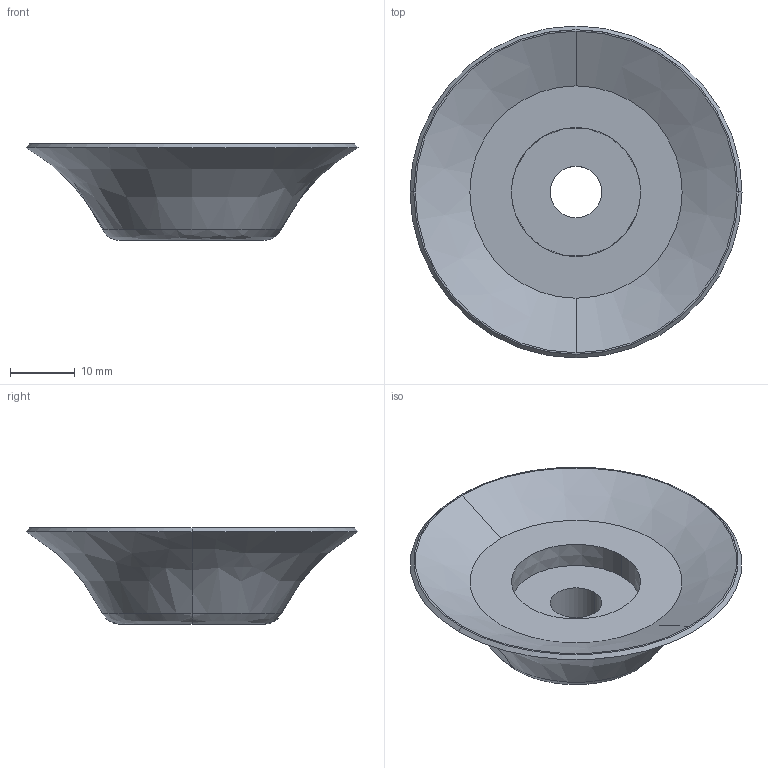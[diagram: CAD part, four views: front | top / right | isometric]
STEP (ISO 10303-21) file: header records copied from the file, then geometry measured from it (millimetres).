
FILE_DESCRIPTION (( 'STEP AP214' ), '1' );
FILE_NAME ('VS-PG50.STEP', '2019-11-13T07:52:17', ( '微软用户' ), ( '微软中国' ), 'SwSTEP 2.0', 'SolidWorks 2016', '' );
FILE_SCHEMA (( 'AUTOMOTIVE_DESIGN' ));
Length unit declared in the file: millimetre
Products named in the file (1): VS-PG50
Bounding box: 51.44 x 51.44 x 15 mm (x, y, z)
Volume: 9292.5 mm3; surface area: 5339.2 mm2
Topology: 1 solids, 1 shells, 17 faces, 36 edges, 22 vertices
Faces by surface type: cone 6, bspline 6, plane 3, cylinder 2
Entity records: 566 total; most frequent: CARTESIAN_POINT 190, ORIENTED_EDGE 72, DIRECTION 72, EDGE_CURVE 36, AXIS2_PLACEMENT_3D 32, VERTEX_POINT 22, CIRCLE 20, EDGE_LOOP 20
